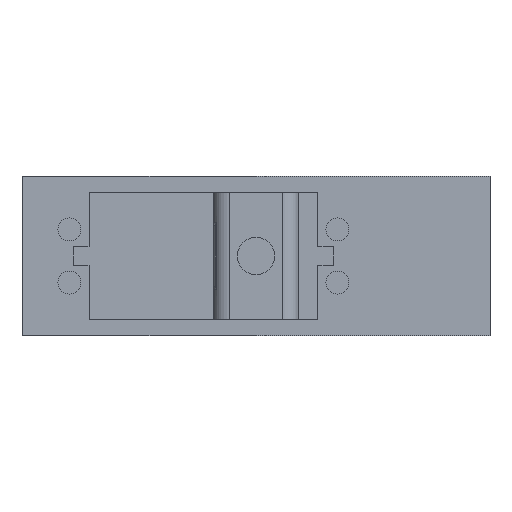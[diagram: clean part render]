
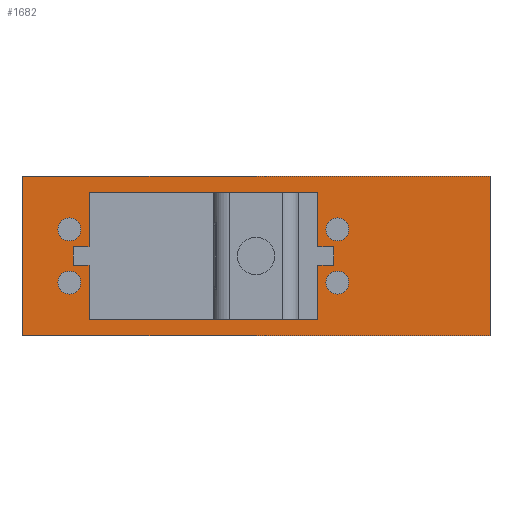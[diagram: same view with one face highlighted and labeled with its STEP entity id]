
A CAD part, front view. The second image highlights one B-rep face of the part: STEP entity #1682.
In plain terms, the highlighted planar face has unit normal (0, -1, 0).
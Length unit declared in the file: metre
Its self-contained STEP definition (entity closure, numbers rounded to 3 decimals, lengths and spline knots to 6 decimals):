
#64=CIRCLE('',#1804,0.00215);
#65=CIRCLE('',#1805,0.00215);
#66=CIRCLE('',#1806,0.00215);
#67=CIRCLE('',#1807,0.00215);
#222=ORIENTED_EDGE('',*,*,#690,.F.);
#223=ORIENTED_EDGE('',*,*,#691,.F.);
#224=ORIENTED_EDGE('',*,*,#692,.F.);
#225=ORIENTED_EDGE('',*,*,#693,.F.);
#226=ORIENTED_EDGE('',*,*,#635,.T.);
#227=ORIENTED_EDGE('',*,*,#694,.F.);
#228=ORIENTED_EDGE('',*,*,#580,.F.);
#229=ORIENTED_EDGE('',*,*,#695,.T.);
#230=ORIENTED_EDGE('',*,*,#696,.T.);
#231=ORIENTED_EDGE('',*,*,#697,.T.);
#232=ORIENTED_EDGE('',*,*,#698,.F.);
#233=ORIENTED_EDGE('',*,*,#699,.T.);
#234=ORIENTED_EDGE('',*,*,#700,.F.);
#235=ORIENTED_EDGE('',*,*,#701,.F.);
#236=ORIENTED_EDGE('',*,*,#702,.F.);
#237=ORIENTED_EDGE('',*,*,#703,.F.);
#238=ORIENTED_EDGE('',*,*,#704,.T.);
#239=ORIENTED_EDGE('',*,*,#705,.F.);
#240=ORIENTED_EDGE('',*,*,#706,.T.);
#241=ORIENTED_EDGE('',*,*,#707,.T.);
#580=EDGE_CURVE('',#817,#818,#982,.T.);
#635=EDGE_CURVE('',#859,#872,#1028,.T.);
#690=EDGE_CURVE('',#921,#921,#64,.T.);
#691=EDGE_CURVE('',#922,#922,#65,.T.);
#692=EDGE_CURVE('',#923,#923,#66,.T.);
#693=EDGE_CURVE('',#924,#924,#67,.T.);
#694=EDGE_CURVE('',#818,#872,#1073,.T.);
#695=EDGE_CURVE('',#817,#859,#1074,.T.);
#696=EDGE_CURVE('',#925,#926,#1075,.T.);
#697=EDGE_CURVE('',#926,#927,#1076,.T.);
#698=EDGE_CURVE('',#928,#927,#1077,.T.);
#699=EDGE_CURVE('',#928,#929,#1078,.T.);
#700=EDGE_CURVE('',#930,#929,#1079,.T.);
#701=EDGE_CURVE('',#931,#930,#1080,.T.);
#702=EDGE_CURVE('',#932,#931,#1081,.T.);
#703=EDGE_CURVE('',#933,#932,#1082,.T.);
#704=EDGE_CURVE('',#933,#934,#1083,.T.);
#705=EDGE_CURVE('',#935,#934,#1084,.T.);
#706=EDGE_CURVE('',#935,#936,#1085,.T.);
#707=EDGE_CURVE('',#936,#925,#1086,.T.);
#817=VERTEX_POINT('',#2409);
#818=VERTEX_POINT('',#2411);
#859=VERTEX_POINT('',#2494);
#872=VERTEX_POINT('',#2520);
#921=VERTEX_POINT('',#2629);
#922=VERTEX_POINT('',#2631);
#923=VERTEX_POINT('',#2633);
#924=VERTEX_POINT('',#2635);
#925=VERTEX_POINT('',#2639);
#926=VERTEX_POINT('',#2640);
#927=VERTEX_POINT('',#2642);
#928=VERTEX_POINT('',#2644);
#929=VERTEX_POINT('',#2646);
#930=VERTEX_POINT('',#2648);
#931=VERTEX_POINT('',#2650);
#932=VERTEX_POINT('',#2652);
#933=VERTEX_POINT('',#2654);
#934=VERTEX_POINT('',#2656);
#935=VERTEX_POINT('',#2658);
#936=VERTEX_POINT('',#2660);
#982=LINE('',#2410,#1163);
#1028=LINE('',#2521,#1209);
#1073=LINE('',#2636,#1254);
#1074=LINE('',#2637,#1255);
#1075=LINE('',#2638,#1256);
#1076=LINE('',#2641,#1257);
#1077=LINE('',#2643,#1258);
#1078=LINE('',#2645,#1259);
#1079=LINE('',#2647,#1260);
#1080=LINE('',#2649,#1261);
#1081=LINE('',#2651,#1262);
#1082=LINE('',#2653,#1263);
#1083=LINE('',#2655,#1264);
#1084=LINE('',#2657,#1265);
#1085=LINE('',#2659,#1266);
#1086=LINE('',#2661,#1267);
#1163=VECTOR('',#1935,1.);
#1209=VECTOR('',#2001,1.);
#1254=VECTOR('',#2082,1.);
#1255=VECTOR('',#2083,1.);
#1256=VECTOR('',#2084,1.);
#1257=VECTOR('',#2085,1.);
#1258=VECTOR('',#2086,1.);
#1259=VECTOR('',#2087,1.);
#1260=VECTOR('',#2088,1.);
#1261=VECTOR('',#2089,1.);
#1262=VECTOR('',#2090,1.);
#1263=VECTOR('',#2091,1.);
#1264=VECTOR('',#2092,1.);
#1265=VECTOR('',#2093,1.);
#1266=VECTOR('',#2094,1.);
#1267=VECTOR('',#2095,1.);
#1355=EDGE_LOOP('',(#222));
#1356=EDGE_LOOP('',(#223));
#1357=EDGE_LOOP('',(#224));
#1358=EDGE_LOOP('',(#225));
#1359=EDGE_LOOP('',(#226,#227,#228,#229));
#1360=EDGE_LOOP('',(#230,#231,#232,#233,#234,#235,#236,#237,#238,#239,#240,
#241));
#1496=FACE_BOUND('',#1355,.T.);
#1497=FACE_BOUND('',#1356,.T.);
#1498=FACE_BOUND('',#1357,.T.);
#1499=FACE_BOUND('',#1358,.T.);
#1500=FACE_BOUND('',#1359,.T.);
#1501=FACE_BOUND('',#1360,.T.);
#1622=PLANE('',#1803);
#1682=ADVANCED_FACE('',(#1496,#1497,#1498,#1499,#1500,#1501),#1622,.F.);
#1803=AXIS2_PLACEMENT_3D('',#2627,#2072,#2073);
#1804=AXIS2_PLACEMENT_3D('',#2628,#2074,#2075);
#1805=AXIS2_PLACEMENT_3D('',#2630,#2076,#2077);
#1806=AXIS2_PLACEMENT_3D('',#2632,#2078,#2079);
#1807=AXIS2_PLACEMENT_3D('',#2634,#2080,#2081);
#1935=DIRECTION('',(1.,0.,0.));
#2001=DIRECTION('',(1.,0.,0.));
#2072=DIRECTION('',(0.,1.,0.));
#2073=DIRECTION('',(0.,0.,1.));
#2074=DIRECTION('',(0.,-1.,0.));
#2075=DIRECTION('',(0.,0.,-1.));
#2076=DIRECTION('',(0.,-1.,0.));
#2077=DIRECTION('',(0.,0.,-1.));
#2078=DIRECTION('',(0.,-1.,0.));
#2079=DIRECTION('',(0.,0.,-1.));
#2080=DIRECTION('',(0.,-1.,0.));
#2081=DIRECTION('',(0.,0.,-1.));
#2082=DIRECTION('',(0.,0.,-1.));
#2083=DIRECTION('',(0.,0.,-1.));
#2084=DIRECTION('',(1.,0.,0.));
#2085=DIRECTION('',(0.,0.,-1.));
#2086=DIRECTION('',(1.,0.,0.));
#2087=DIRECTION('',(0.,0.,-1.));
#2088=DIRECTION('',(1.,0.,0.));
#2089=DIRECTION('',(0.,0.,-1.));
#2090=DIRECTION('',(1.,0.,0.));
#2091=DIRECTION('',(0.,0.,-1.));
#2092=DIRECTION('',(1.,0.,0.));
#2093=DIRECTION('',(0.,0.,-1.));
#2094=DIRECTION('',(1.,0.,0.));
#2095=DIRECTION('',(0.,0.,-1.));
#2409=CARTESIAN_POINT('',(-0.062411,-0.137919,0.03));
#2410=CARTESIAN_POINT('',(-0.018411,-0.137919,0.03));
#2411=CARTESIAN_POINT('',(0.025589,-0.137919,0.03));
#2494=CARTESIAN_POINT('',(-0.062411,-0.137919,0.));
#2520=CARTESIAN_POINT('',(0.025589,-0.137919,0.));
#2521=CARTESIAN_POINT('',(-0.018411,-0.137919,0.));
#2627=CARTESIAN_POINT('',(-0.018411,-0.137919,0.03));
#2628=CARTESIAN_POINT('',(-0.053511,-0.137919,0.01));
#2629=CARTESIAN_POINT('',(-0.053511,-0.137919,0.00785));
#2630=CARTESIAN_POINT('',(-0.053511,-0.137919,0.02));
#2631=CARTESIAN_POINT('',(-0.053511,-0.137919,0.01785));
#2632=CARTESIAN_POINT('',(-0.003111,-0.137919,0.01));
#2633=CARTESIAN_POINT('',(-0.003111,-0.137919,0.00785));
#2634=CARTESIAN_POINT('',(-0.003111,-0.137919,0.02));
#2635=CARTESIAN_POINT('',(-0.003111,-0.137919,0.01785));
#2636=CARTESIAN_POINT('',(0.025589,-0.137919,0.03));
#2637=CARTESIAN_POINT('',(-0.062411,-0.137919,0.03));
#2638=CARTESIAN_POINT('',(-0.005311,-0.137919,0.01675));
#2639=CARTESIAN_POINT('',(-0.006811,-0.137919,0.01675));
#2640=CARTESIAN_POINT('',(-0.003811,-0.137919,0.01675));
#2641=CARTESIAN_POINT('',(-0.003811,-0.137919,0.015));
#2642=CARTESIAN_POINT('',(-0.003811,-0.137919,0.01325));
#2643=CARTESIAN_POINT('',(-0.005311,-0.137919,0.01325));
#2644=CARTESIAN_POINT('',(-0.006811,-0.137919,0.01325));
#2645=CARTESIAN_POINT('',(-0.006811,-0.137919,0.008125));
#2646=CARTESIAN_POINT('',(-0.006811,-0.137919,0.003));
#2647=CARTESIAN_POINT('',(-0.028311,-0.137919,0.003));
#2648=CARTESIAN_POINT('',(-0.049811,-0.137919,0.003));
#2649=CARTESIAN_POINT('',(-0.049811,-0.137919,0.008125));
#2650=CARTESIAN_POINT('',(-0.049811,-0.137919,0.01325));
#2651=CARTESIAN_POINT('',(-0.051311,-0.137919,0.01325));
#2652=CARTESIAN_POINT('',(-0.052811,-0.137919,0.01325));
#2653=CARTESIAN_POINT('',(-0.052811,-0.137919,0.015));
#2654=CARTESIAN_POINT('',(-0.052811,-0.137919,0.01675));
#2655=CARTESIAN_POINT('',(-0.051311,-0.137919,0.01675));
#2656=CARTESIAN_POINT('',(-0.049811,-0.137919,0.01675));
#2657=CARTESIAN_POINT('',(-0.049811,-0.137919,0.021875));
#2658=CARTESIAN_POINT('',(-0.049811,-0.137919,0.027));
#2659=CARTESIAN_POINT('',(-0.028311,-0.137919,0.027));
#2660=CARTESIAN_POINT('',(-0.006811,-0.137919,0.027));
#2661=CARTESIAN_POINT('',(-0.006811,-0.137919,0.021875));
